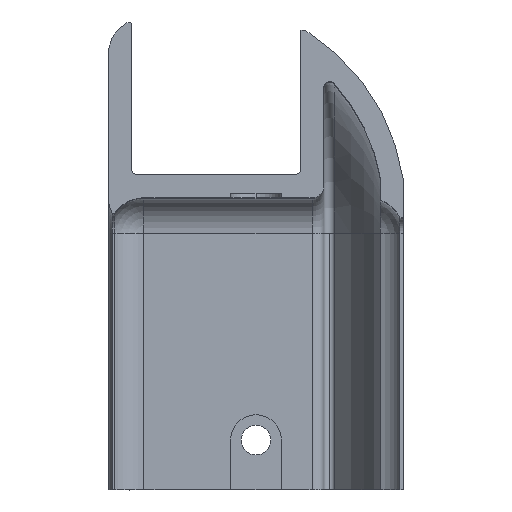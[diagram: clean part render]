
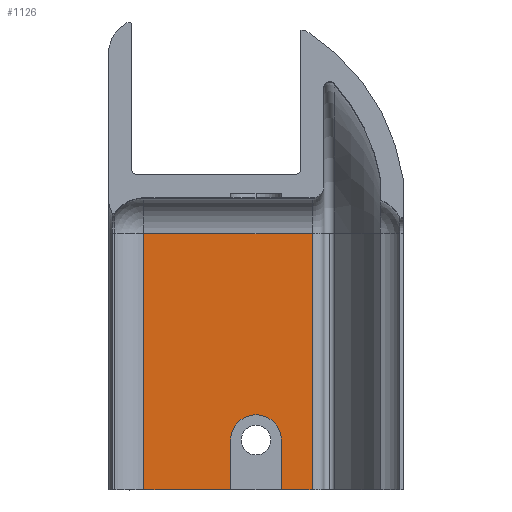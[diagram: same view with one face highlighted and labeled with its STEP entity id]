
A CAD part, top view. The second image highlights one B-rep face of the part: STEP entity #1126.
In plain terms, the highlighted planar face has unit normal (0, 0, 1).
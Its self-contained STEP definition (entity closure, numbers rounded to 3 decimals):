
#10 = LINE ( 'NONE', #819, #1783 ) ;
#28 = EDGE_CURVE ( 'NONE', #1337, #464, #2394, .T. ) ;
#66 = DIRECTION ( 'NONE',  ( 1., 0., 0. ) ) ;
#184 = ORIENTED_EDGE ( 'NONE', *, *, #28, .F. ) ;
#207 = CARTESIAN_POINT ( 'NONE',  ( -2.15, -9.95, -25. ) ) ;
#255 = VERTEX_POINT ( 'NONE', #1453 ) ;
#282 = ORIENTED_EDGE ( 'NONE', *, *, #912, .T. ) ;
#309 = DIRECTION ( 'NONE',  ( 0., 0., -1. ) ) ;
#387 = CARTESIAN_POINT ( 'NONE',  ( 2.15, -14.15, -25. ) ) ;
#431 = LINE ( 'NONE', #207, #2553 ) ;
#464 = VERTEX_POINT ( 'NONE', #2118 ) ;
#518 = ORIENTED_EDGE ( 'NONE', *, *, #551, .F. ) ;
#551 = EDGE_CURVE ( 'NONE', #255, #1999, #1616, .T. ) ;
#628 = DIRECTION ( 'NONE',  ( 0., -1., 0. ) ) ;
#638 = CARTESIAN_POINT ( 'NONE',  ( -9.5, -14.15, -25. ) ) ;
#655 = VECTOR ( 'NONE', #2373, 1000. ) ;
#763 = LINE ( 'NONE', #1847, #2645 ) ;
#819 = CARTESIAN_POINT ( 'NONE',  ( -9.5, 7.55, -25. ) ) ;
#836 = VERTEX_POINT ( 'NONE', #983 ) ;
#906 = CARTESIAN_POINT ( 'NONE',  ( -9.5, -14.15, -25. ) ) ;
#912 = EDGE_CURVE ( 'NONE', #2255, #836, #1217, .T. ) ;
#914 = CARTESIAN_POINT ( 'NONE',  ( -2.15, -14.15, -25. ) ) ;
#983 = CARTESIAN_POINT ( 'NONE',  ( 4.75, -14.15, -25. ) ) ;
#1024 = CARTESIAN_POINT ( 'NONE',  ( -2.15, -9.95, -25. ) ) ;
#1034 = ORIENTED_EDGE ( 'NONE', *, *, #2000, .F. ) ;
#1035 = VECTOR ( 'NONE', #66, 1000. ) ;
#1052 = AXIS2_PLACEMENT_3D ( 'NONE', #2352, #1319, #1944 ) ;
#1063 = EDGE_CURVE ( 'NONE', #464, #836, #1767, .T. ) ;
#1126 = ADVANCED_FACE ( 'NONE', ( #1343 ), #1558, .F. ) ;
#1180 = EDGE_CURVE ( 'NONE', #2286, #1726, #2547, .T. ) ;
#1209 = DIRECTION ( 'NONE',  ( 0., 1., 0. ) ) ;
#1217 = LINE ( 'NONE', #638, #2418 ) ;
#1264 = CARTESIAN_POINT ( 'NONE',  ( 4.75, 7.55, -25. ) ) ;
#1319 = DIRECTION ( 'NONE',  ( 0., 0., 1. ) ) ;
#1337 = VERTEX_POINT ( 'NONE', #2392 ) ;
#1343 = FACE_OUTER_BOUND ( 'NONE', #2236, .T. ) ;
#1376 = EDGE_CURVE ( 'NONE', #1337, #2286, #10, .T. ) ;
#1453 = CARTESIAN_POINT ( 'NONE',  ( 2.15, -9.95, -25. ) ) ;
#1465 = EDGE_CURVE ( 'NONE', #1999, #1726, #431, .T. ) ;
#1558 = PLANE ( 'NONE',  #2431 ) ;
#1568 = CARTESIAN_POINT ( 'NONE',  ( -9.5, 7.55, -25. ) ) ;
#1616 = CIRCLE ( 'NONE', #1052, 2.15 ) ;
#1636 = ORIENTED_EDGE ( 'NONE', *, *, #1180, .T. ) ;
#1646 = DIRECTION ( 'NONE',  ( 0., -1., 0. ) ) ;
#1704 = VECTOR ( 'NONE', #2307, 1000. ) ;
#1725 = DIRECTION ( 'NONE',  ( 0., 1., 0. ) ) ;
#1726 = VERTEX_POINT ( 'NONE', #914 ) ;
#1767 = LINE ( 'NONE', #1264, #1704 ) ;
#1783 = VECTOR ( 'NONE', #628, 1000. ) ;
#1847 = CARTESIAN_POINT ( 'NONE',  ( 2.15, -9.95, -25. ) ) ;
#1850 = CARTESIAN_POINT ( 'NONE',  ( -9.5, -14.15, -25. ) ) ;
#1944 = DIRECTION ( 'NONE',  ( 1., 0., 0. ) ) ;
#1951 = ORIENTED_EDGE ( 'NONE', *, *, #1465, .F. ) ;
#1999 = VERTEX_POINT ( 'NONE', #1024 ) ;
#2000 = EDGE_CURVE ( 'NONE', #2255, #255, #763, .T. ) ;
#2118 = CARTESIAN_POINT ( 'NONE',  ( 4.75, 7.55, -25. ) ) ;
#2236 = EDGE_LOOP ( 'NONE', ( #518, #1034, #282, #2495, #184, #2312, #1636, #1951 ) ) ;
#2249 = DIRECTION ( 'NONE',  ( 1., 0., 0. ) ) ;
#2255 = VERTEX_POINT ( 'NONE', #387 ) ;
#2286 = VERTEX_POINT ( 'NONE', #1850 ) ;
#2307 = DIRECTION ( 'NONE',  ( 0., -1., 0. ) ) ;
#2312 = ORIENTED_EDGE ( 'NONE', *, *, #1376, .T. ) ;
#2352 = CARTESIAN_POINT ( 'NONE',  ( 0., -9.95, -25. ) ) ;
#2373 = DIRECTION ( 'NONE',  ( 1., 0., 0. ) ) ;
#2392 = CARTESIAN_POINT ( 'NONE',  ( -9.5, 7.55, -25. ) ) ;
#2394 = LINE ( 'NONE', #2530, #1035 ) ;
#2418 = VECTOR ( 'NONE', #2249, 1000. ) ;
#2431 = AXIS2_PLACEMENT_3D ( 'NONE', #1568, #309, #1725 ) ;
#2495 = ORIENTED_EDGE ( 'NONE', *, *, #1063, .F. ) ;
#2530 = CARTESIAN_POINT ( 'NONE',  ( -9.5, 7.55, -25. ) ) ;
#2547 = LINE ( 'NONE', #906, #655 ) ;
#2553 = VECTOR ( 'NONE', #1646, 1000. ) ;
#2645 = VECTOR ( 'NONE', #1209, 1000. ) ;
